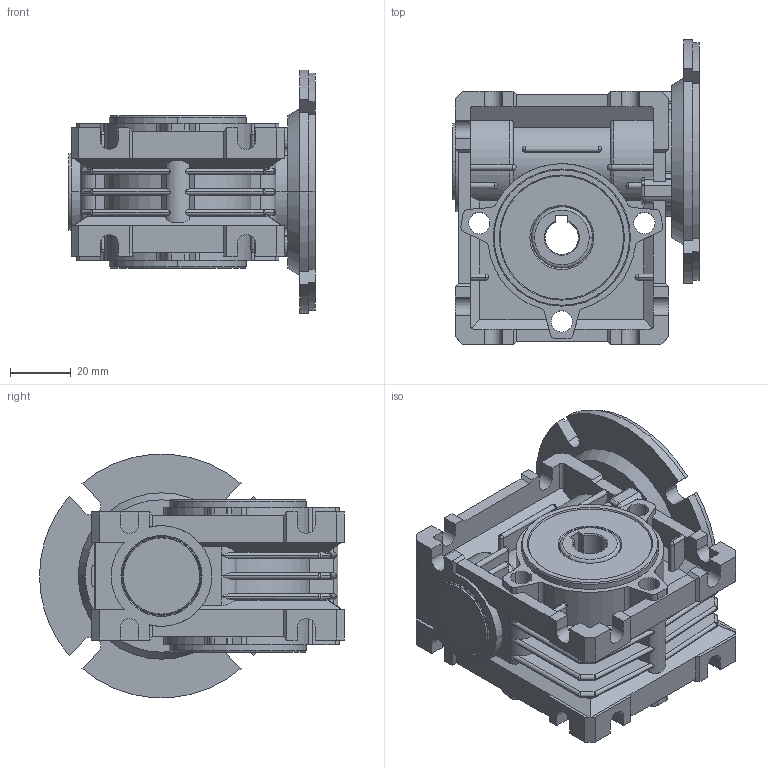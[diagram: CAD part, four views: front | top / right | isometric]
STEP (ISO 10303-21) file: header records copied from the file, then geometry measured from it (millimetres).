
FILE_DESCRIPTION(('STEP AP214'),'1');
FILE_NAME('NMRV025-56B14.stp','2020-07-27T01:57:04',(' '),(' '),'Spatial InterOp 3D',' ',' ');
FILE_SCHEMA(('automotive_design'));
Length unit declared in the file: millimetre
Products named in the file (4): 零件8; 零件9; 零件10; 零件11
Bounding box: 80.7 x 100 x 79.75 mm (x, y, z)
Volume: 187964 mm3; surface area: 67862.6 mm2
Topology: 4 solids, 14 shells, 870 faces, 2334 edges, 1469 vertices
Faces by surface type: plane 481, cylinder 285, sphere 40, cone 32, torus 30, bspline 2
Entity records: 35217 total; most frequent: CARTESIAN_POINT 6218, DIRECTION 4686, ORIENTED_EDGE 4600, EDGE_CURVE 2300, AXIS2_PLACEMENT_3D 1615, VERTEX_POINT 1469, LINE 1456, VECTOR 1456
